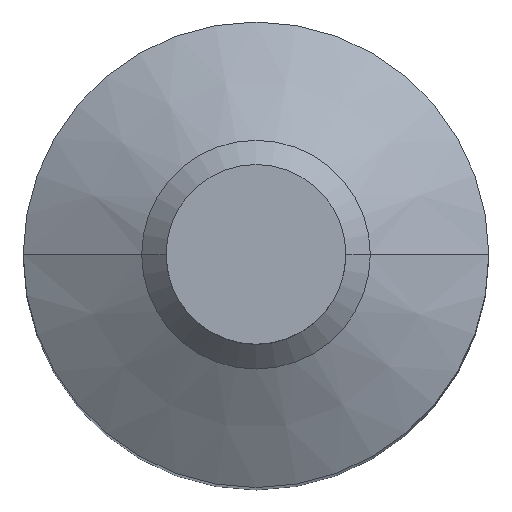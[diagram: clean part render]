
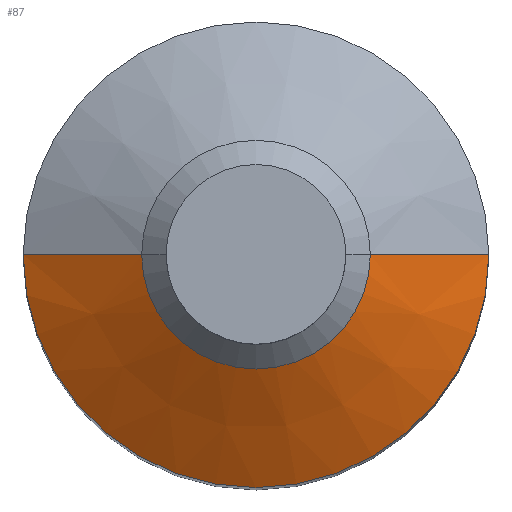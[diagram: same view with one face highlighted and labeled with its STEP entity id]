
A CAD part, top view. The second image highlights one B-rep face of the part: STEP entity #87.
In plain terms, the highlighted conical face has half-angle 60 degrees and reference radius 28.5 mm.
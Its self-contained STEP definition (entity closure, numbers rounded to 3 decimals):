
#5 = CARTESIAN_POINT ( 'NONE',  ( 14., 0., 176.268 ) ) ;
#14 = EDGE_CURVE ( 'NONE', #255, #235, #187, .T. ) ;
#33 = DIRECTION ( 'NONE',  ( -1., 0., 0. ) ) ;
#37 = DIRECTION ( 'NONE',  ( -1., 0., 0. ) ) ;
#47 = VECTOR ( 'NONE', #109, 1000. ) ;
#55 = CARTESIAN_POINT ( 'NONE',  ( -28.5, 0., 167.896 ) ) ;
#56 = LINE ( 'NONE', #167, #47 ) ;
#58 = DIRECTION ( 'NONE',  ( 0.866, 0., -0.5 ) ) ;
#62 = FACE_OUTER_BOUND ( 'NONE', #97, .T. ) ;
#68 = AXIS2_PLACEMENT_3D ( 'NONE', #164, #202, #209 ) ;
#69 = CARTESIAN_POINT ( 'NONE',  ( -14., 0., 176.268 ) ) ;
#79 = CARTESIAN_POINT ( 'NONE',  ( 28.5, 0., 167.896 ) ) ;
#86 = EDGE_CURVE ( 'NONE', #235, #222, #56, .T. ) ;
#87 = ADVANCED_FACE ( 'NONE', ( #62 ), #218, .T. ) ;
#88 = EDGE_CURVE ( 'NONE', #255, #139, #282, .T. ) ;
#91 = ORIENTED_EDGE ( 'NONE', *, *, #86, .T. ) ;
#97 = EDGE_LOOP ( 'NONE', ( #153, #99, #91, #156 ) ) ;
#99 = ORIENTED_EDGE ( 'NONE', *, *, #14, .T. ) ;
#109 = DIRECTION ( 'NONE',  ( -0.866, 0., -0.5 ) ) ;
#115 = VECTOR ( 'NONE', #58, 1000. ) ;
#120 = AXIS2_PLACEMENT_3D ( 'NONE', #201, #195, #37 ) ;
#129 = CARTESIAN_POINT ( 'NONE',  ( 0., 0., 167.896 ) ) ;
#130 = AXIS2_PLACEMENT_3D ( 'NONE', #129, #145, #33 ) ;
#133 = CARTESIAN_POINT ( 'NONE',  ( 28.5, 0., 167.896 ) ) ;
#139 = VERTEX_POINT ( 'NONE', #79 ) ;
#145 = DIRECTION ( 'NONE',  ( 0., 0., -1. ) ) ;
#153 = ORIENTED_EDGE ( 'NONE', *, *, #88, .F. ) ;
#156 = ORIENTED_EDGE ( 'NONE', *, *, #230, .F. ) ;
#164 = CARTESIAN_POINT ( 'NONE',  ( 0., 0., 167.896 ) ) ;
#167 = CARTESIAN_POINT ( 'NONE',  ( -28.5, 0., 167.896 ) ) ;
#187 = CIRCLE ( 'NONE', #120, 14. ) ;
#195 = DIRECTION ( 'NONE',  ( 0., 0., -1. ) ) ;
#201 = CARTESIAN_POINT ( 'NONE',  ( 0., 0., 176.268 ) ) ;
#202 = DIRECTION ( 'NONE',  ( 0., 0., -1. ) ) ;
#209 = DIRECTION ( 'NONE',  ( -1., 0., 0. ) ) ;
#218 = CONICAL_SURFACE ( 'NONE', #130, 28.5, 1.047 ) ;
#222 = VERTEX_POINT ( 'NONE', #55 ) ;
#230 = EDGE_CURVE ( 'NONE', #139, #222, #274, .T. ) ;
#235 = VERTEX_POINT ( 'NONE', #69 ) ;
#255 = VERTEX_POINT ( 'NONE', #5 ) ;
#274 = CIRCLE ( 'NONE', #68, 28.5 ) ;
#282 = LINE ( 'NONE', #133, #115 ) ;
